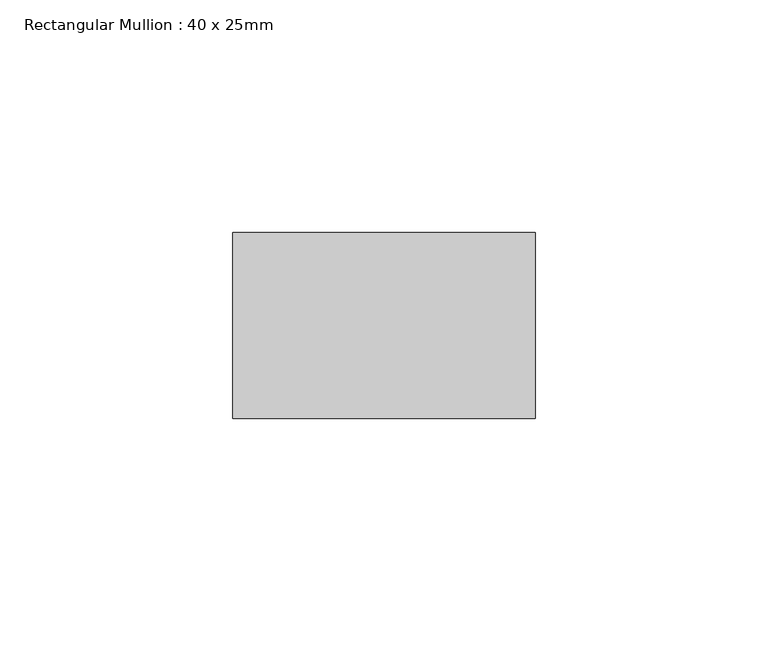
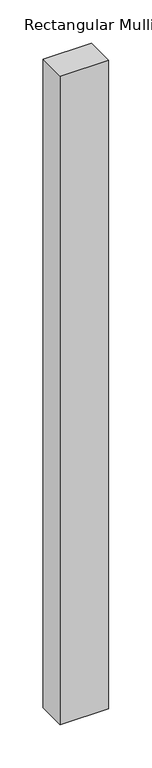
"""IFC4 building model written with IfcOpenShell, lengths in millimetres: member geometry, Rectangular Mullion : 40 x 25mm."""

from ifc_helpers import new_model, si_unit, frame, origin, place, context, project, spatial, polyline, outline, extrude, source, transform, mapped, element, save


def rectangular_mullion_40_x_25mm_c05fab85(model_context):
    return source(origin(), model_context, "Body", "SweptSolid", [
        extrude(outline(polyline([(0.0, -20.0), (0.0, -60.0), (-65.0, -60.0), (-65.0, -20.0), (0.0, -20.0)])), frame((0.0, 0.0, -917.9333333), z_axis=(0.0, 0.0, 1.0), x_axis=(1.0, 0.0, 0.0)), (0.0, 0.0, 1.0), 917.9333333),
    ])


if __name__ == "__main__":
    model = new_model("IFC4")
    model_context = context("Model", 3, world=origin())
    ifc_project = project(units=[si_unit("LENGTHUNIT", "METRE", prefix="MILLI")], contexts=[model_context])
    site = spatial("IfcSite", under=ifc_project)
    building = spatial("IfcBuilding", under=site)
    placement = place(None, origin())
    rectangular_mullion_40_x_25mm_shape = rectangular_mullion_40_x_25mm_c05fab85(model_context)
    element("IfcMember", 1, ObjectType="Rectangular Mullion : 40 x 25mm", at=placement, inside=building, context=model_context, shape_type="MappedRepresentation", body=[
        mapped(rectangular_mullion_40_x_25mm_shape, transform((0.0, 0.0, 0.0), x_axis=(1.0, 0.0, 0.0), y_axis=(0.0, 1.0, 0.0), z_axis=(0.0, 0.0, 1.0))),
    ])
    save(model, "model.ifc")
